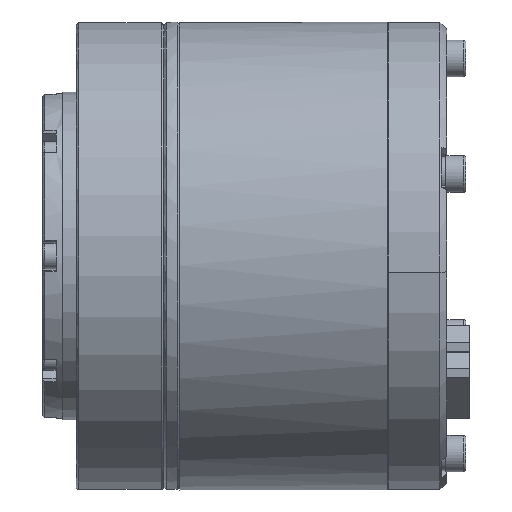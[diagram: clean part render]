
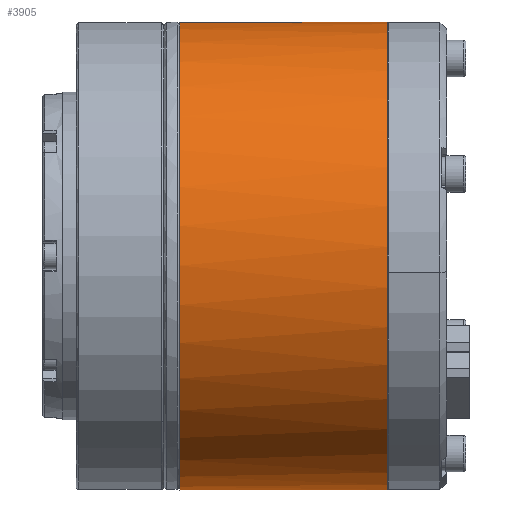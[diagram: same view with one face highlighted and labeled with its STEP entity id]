
A CAD part, front view. The second image highlights one B-rep face of the part: STEP entity #3905.
In plain terms, the highlighted cylindrical face has radius 35 mm (diameter 70 mm), a full revolution.
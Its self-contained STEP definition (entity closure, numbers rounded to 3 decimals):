
#1343 = AXIS2_PLACEMENT_3D ( 'NONE', #19823, #30401, #25812 ) ;
#2740 = CIRCLE ( 'NONE', #44383, 35. ) ;
#3070 = VERTEX_POINT ( 'NONE', #45700 ) ;
#3905 = ADVANCED_FACE ( 'NONE', ( #29702, #8911 ), #19136, .T. ) ;
#8911 = FACE_OUTER_BOUND ( 'NONE', #46735, .T. ) ;
#14643 = CARTESIAN_POINT ( 'NONE',  ( 26.519, 1.046, 0. ) ) ;
#17676 = EDGE_CURVE ( 'NONE', #3070, #3070, #2740, .T. ) ;
#19041 = DIRECTION ( 'NONE',  ( 0., 0.926, -0.378 ) ) ;
#19136 = CYLINDRICAL_SURFACE ( 'NONE', #1343, 35. ) ;
#19823 = CARTESIAN_POINT ( 'NONE',  ( 37.519, 1.046, 0. ) ) ;
#24336 = CARTESIAN_POINT ( 'NONE',  ( 57.519, 1.046, 0. ) ) ;
#25812 = DIRECTION ( 'NONE',  ( 0., 0.926, -0.378 ) ) ;
#26376 = EDGE_LOOP ( 'NONE', ( #61520 ) ) ;
#29702 = FACE_OUTER_BOUND ( 'NONE', #26376, .T. ) ;
#30401 = DIRECTION ( 'NONE',  ( 1., 0., 0. ) ) ;
#31199 = DIRECTION ( 'NONE',  ( -1., 0., 0. ) ) ;
#31236 = CARTESIAN_POINT ( 'NONE',  ( 26.519, 1.046, -35. ) ) ;
#31928 = VERTEX_POINT ( 'NONE', #31236 ) ;
#32483 = EDGE_CURVE ( 'NONE', #31928, #31928, #33584, .T. ) ;
#33584 = CIRCLE ( 'NONE', #42579, 35. ) ;
#42579 = AXIS2_PLACEMENT_3D ( 'NONE', #14643, #31199, #64008 ) ;
#44383 = AXIS2_PLACEMENT_3D ( 'NONE', #24336, #45820, #19041 ) ;
#45700 = CARTESIAN_POINT ( 'NONE',  ( 57.519, 33.442, -13.247 ) ) ;
#45820 = DIRECTION ( 'NONE',  ( 1., 0., 0. ) ) ;
#46735 = EDGE_LOOP ( 'NONE', ( #53014 ) ) ;
#53014 = ORIENTED_EDGE ( 'NONE', *, *, #32483, .F. ) ;
#61520 = ORIENTED_EDGE ( 'NONE', *, *, #17676, .F. ) ;
#64008 = DIRECTION ( 'NONE',  ( 0., 0., -1. ) ) ;
